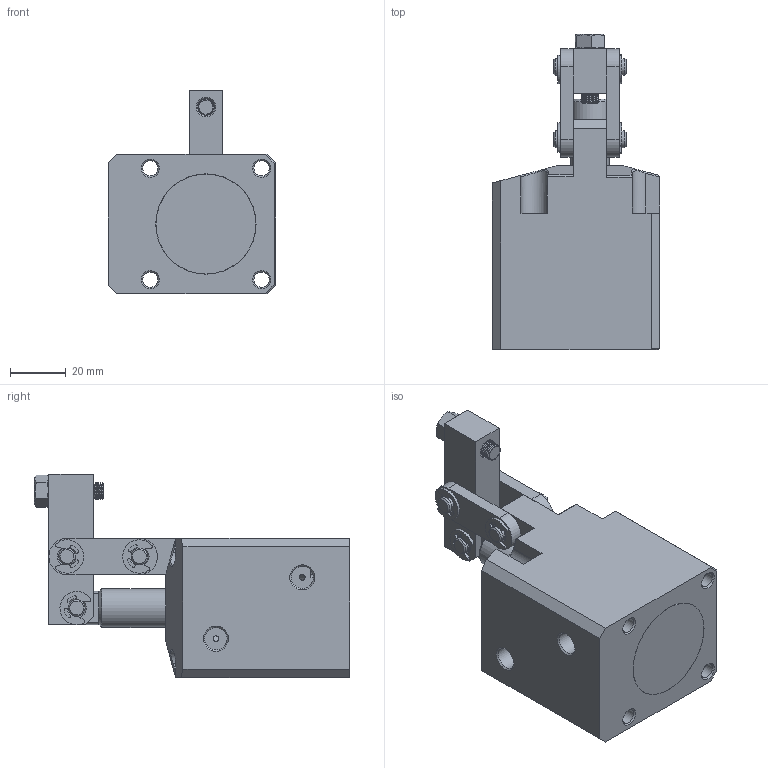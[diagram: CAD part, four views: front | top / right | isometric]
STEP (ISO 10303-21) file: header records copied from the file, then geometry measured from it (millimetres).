
FILE_DESCRIPTION(/* description */ ('STEP AP214'),/* implementation_level */ '2;1');
FILE_NAME(/* name */ 'D:\Vault_2016\Projekty\Clamptek\Hydraulic\CBLU\CBLU-30\STEP\CBLU-30R.stp',/* time_stamp */ '2021-05-06T12:13:10+02:00',/* author */ ('user'),/* organization */ (''),/* preprocessor_version */ 'ST-DEVELOPER v18.1',/* originating_system */ 'Autodesk Inventor 2021',/* authorisation */ '');
FILE_SCHEMA (('AUTOMOTIVE_DESIGN { 1 0 10303 214 3 1 1 }'));
Length unit declared in the file: millimetre
Products named in the file (10): CBLU-30R; ±¾ÌåCR_1_1_1; 30Á¬¸Ë; hex nuts, style 1-grades ab gb_GB_FASTENER_NUT_SNAB1 M6-N; hexagon socket head cap screws gb_GB_FASTENER_SCREWS_HSHCS M6X25-S_1; ³¤ÏúÖá_1; 30¶ÌÏúÖá; 30»îÈû¸Ë_2_1; 30Ñ¹°å; e rings gb_GB_CONNECTING_PIECE_RINGS_HR 6_1
Assembly tree (16 placements, depth 2):
  CBLU-30R
    ±¾ÌåCR_1_1_1
    30Á¬¸Ë  x2
    hex nuts, style 1-grades ab gb_GB_FASTENER_NUT_SNAB1 M6-N
    hexagon socket head cap screws gb_GB_FASTENER_SCREWS_HSHCS M6X25-S_1
    ³¤ÏúÖá_1  x2
    e rings gb_GB_CONNECTING_PIECE_RINGS_HR 6_1  x6
    30¶ÌÏúÖá
    30»îÈû¸Ë_2_1
    30Ñ¹°å
Bounding box: 60 x 113.2 x 73 mm (x, y, z)
Volume: 188090 mm3; surface area: 46924.7 mm2
Topology: 16 solids, 16 shells, 449 faces, 1138 edges, 741 vertices
Faces by surface type: cylinder 161, plane 160, cone 118, bspline 10
Full cylindrical faces by diameter (mm): 2 x2, 2.5 x1, 4.9 x3, 4.917 x1, 5 x3, 5.5 x4, 6 x56, 8 x2, 14 x1, 30 x2, 35.917 x1, 36 x1, 37 x1
Entity records: 11265 total; most frequent: CARTESIAN_POINT 2708, DIRECTION 1828, ORIENTED_EDGE 1638, EDGE_CURVE 819, AXIS2_PLACEMENT_3D 715, VERTEX_POINT 529, LINE 398, VECTOR 398
